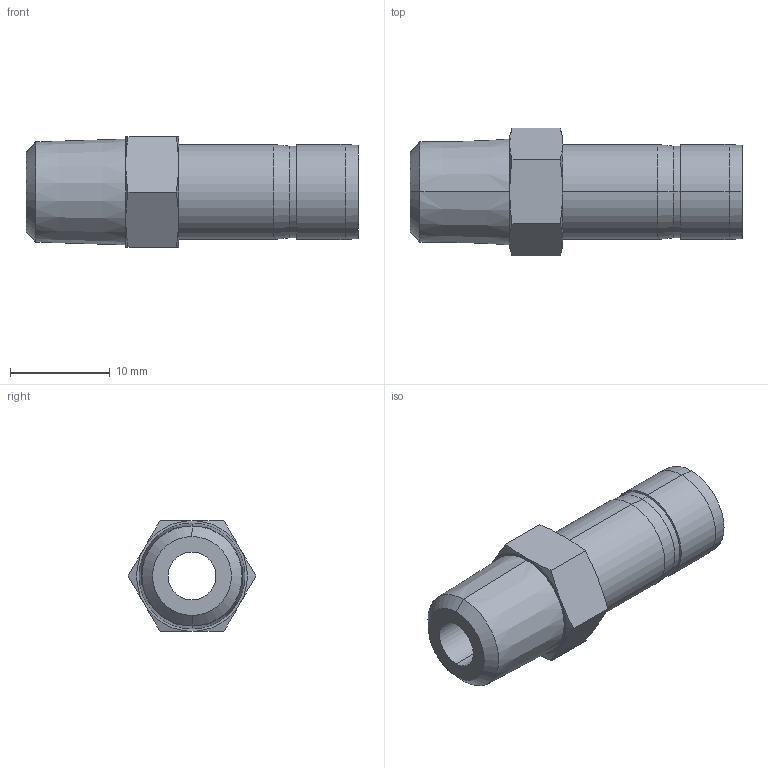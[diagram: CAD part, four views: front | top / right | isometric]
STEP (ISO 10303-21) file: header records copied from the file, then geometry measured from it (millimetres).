
FILE_DESCRIPTION (( 'STEP AP203' ), '1' );
FILE_NAME ('DHA06-02 SS.STEP', '2009-09-08T06:14:46', ( ' ' ), ( '' ), 'SwSTEP 2.0', 'SolidWorks 2008', '' );
FILE_SCHEMA (( 'CONFIG_CONTROL_DESIGN' ));
Length unit declared in the file: millimetre
Products named in the file (1): DHA06-02 SS
Bounding box: 33.3 x 12.83 x 11.11 mm (x, y, z)
Volume: 1620.2 mm3; surface area: 1849.6 mm2
Topology: 1 solids, 1 shells, 44 faces, 92 edges, 52 vertices
Faces by surface type: cone 24, cylinder 10, plane 10
Entity records: 1265 total; most frequent: CARTESIAN_POINT 269, DIRECTION 198, ORIENTED_EDGE 184, EDGE_CURVE 92, AXIS2_PLACEMENT_3D 85, VERTEX_POINT 52, EDGE_LOOP 48, ADVANCED_FACE 44
